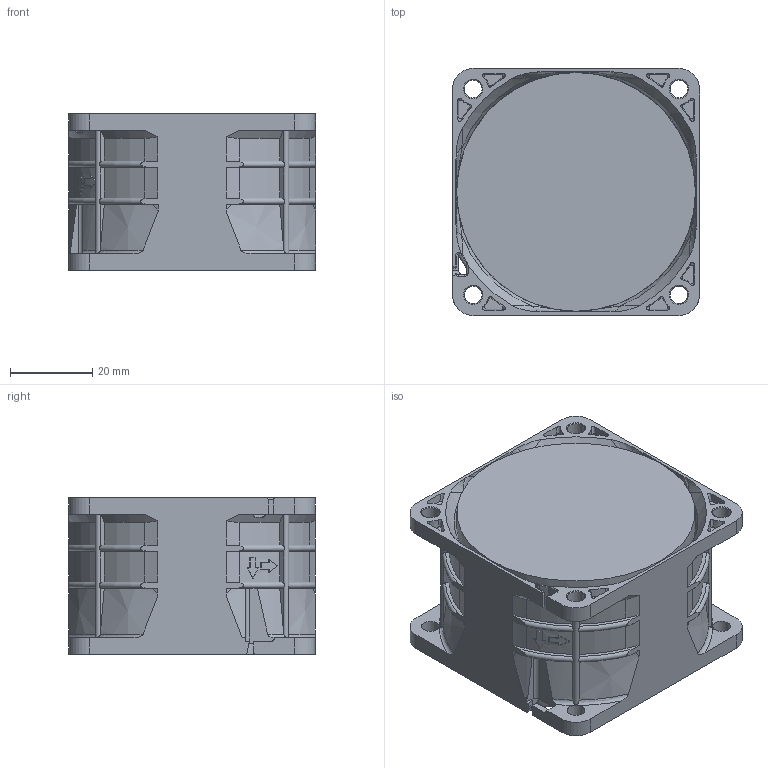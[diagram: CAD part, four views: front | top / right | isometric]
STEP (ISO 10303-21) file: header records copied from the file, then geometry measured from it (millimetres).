
FILE_DESCRIPTION(/* description */ (''),/* implementation_level */ '2;1');
FILE_NAME(/* name */ '',/* time_stamp */ '2025-09-15T19:03:14+08:00',/* author */ (''),/* organization */ (''),/* preprocessor_version */ 'ST-DEVELOPER v15',/* originating_system */ 'SIEMENS PLM Software NX 8.5',/* authorisation */ '');
FILE_SCHEMA (('AUTOMOTIVE_DESIGN { 1 0 10303 214 3 1 1 1 }'));
Products named in the file (1): Admi279844B7mmnv
Bounding box: 60.02 x 60 x 38 mm (x, y, z)
Volume: 117491.8 mm3; surface area: 23912.7 mm2
Topology: 2 solids, 2 shells, 746 faces, 2096 edges, 1381 vertices
Faces by surface type: plane 343, cylinder 166, bspline 95, cone 76, torus 41, extrusion 24, sphere 1
Full cylindrical faces by diameter (mm): 4.3 x8, 7 x1, 8 x2, 9 x2, 9.4 x1, 10 x6, 58 x2
Entity records: 44023 total; most frequent: CARTESIAN_POINT 22338, ORIENTED_EDGE 4054, DIRECTION 3284, EDGE_CURVE 2027, VERTEX_POINT 1357, AXIS2_PLACEMENT_3D 1210, VECTOR 864, LINE 840
